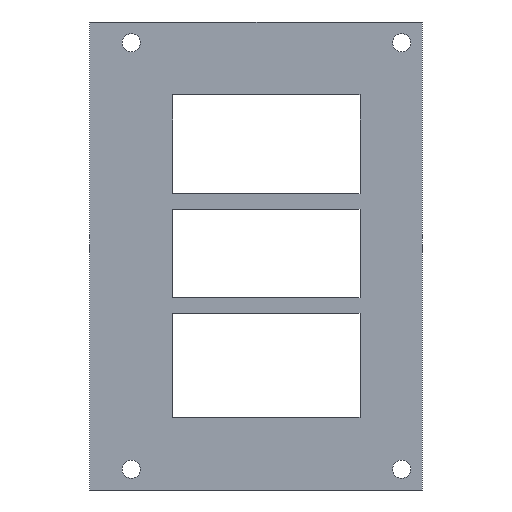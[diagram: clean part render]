
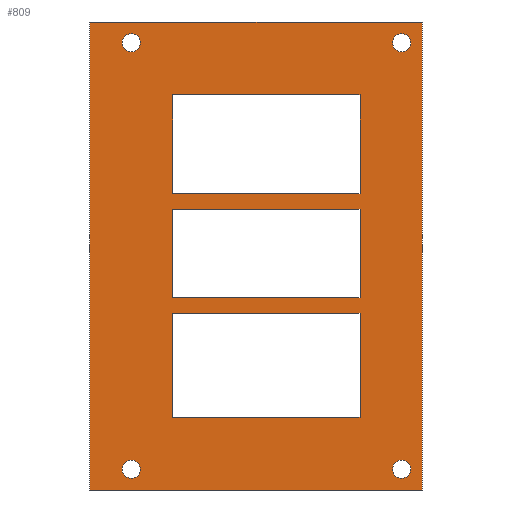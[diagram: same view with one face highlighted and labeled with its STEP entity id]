
A CAD part, left-side view. The second image highlights one B-rep face of the part: STEP entity #809.
In plain terms, the highlighted planar face has unit normal (-1, 0, 0).
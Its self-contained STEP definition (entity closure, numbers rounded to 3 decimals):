
#22 = VERTEX_POINT('',#23);
#23 = CARTESIAN_POINT('',(-6.,4.,12.));
#31 = EDGE_CURVE('',#22,#32,#34,.T.);
#32 = VERTEX_POINT('',#33);
#33 = CARTESIAN_POINT('',(-6.,4.,102.));
#34 = LINE('',#35,#36);
#35 = CARTESIAN_POINT('',(-6.,4.,12.));
#36 = VECTOR('',#37,1.);
#37 = DIRECTION('',(0.,0.,1.));
#61 = EDGE_CURVE('',#32,#62,#64,.T.);
#62 = VERTEX_POINT('',#63);
#63 = CARTESIAN_POINT('',(-6.,68.,102.));
#64 = LINE('',#65,#66);
#65 = CARTESIAN_POINT('',(-6.,4.,102.));
#66 = VECTOR('',#67,1.);
#67 = DIRECTION('',(0.,1.,0.));
#92 = EDGE_CURVE('',#22,#93,#95,.T.);
#93 = VERTEX_POINT('',#94);
#94 = CARTESIAN_POINT('',(-6.,68.,12.));
#95 = LINE('',#96,#97);
#96 = CARTESIAN_POINT('',(-6.,4.,12.));
#97 = VECTOR('',#98,1.);
#98 = DIRECTION('',(0.,1.,0.));
#124 = EDGE_CURVE('',#93,#62,#125,.T.);
#125 = LINE('',#126,#127);
#126 = CARTESIAN_POINT('',(-6.,68.,12.));
#127 = VECTOR('',#128,1.);
#128 = DIRECTION('',(0.,0.,1.));
#237 = VERTEX_POINT('',#238);
#238 = CARTESIAN_POINT('',(-6.,60.,17.75));
#244 = EDGE_CURVE('',#237,#237,#245,.T.);
#245 = CIRCLE('',#246,1.75);
#246 = AXIS2_PLACEMENT_3D('',#247,#248,#249);
#247 = CARTESIAN_POINT('',(-6.,60.,16.));
#248 = DIRECTION('',(1.,0.,-0.));
#249 = DIRECTION('',(0.,0.,1.));
#262 = VERTEX_POINT('',#263);
#263 = CARTESIAN_POINT('',(-6.,60.,99.75));
#269 = EDGE_CURVE('',#262,#262,#270,.T.);
#270 = CIRCLE('',#271,1.75);
#271 = AXIS2_PLACEMENT_3D('',#272,#273,#274);
#272 = CARTESIAN_POINT('',(-6.,60.,98.));
#273 = DIRECTION('',(1.,0.,-0.));
#274 = DIRECTION('',(0.,0.,1.));
#287 = VERTEX_POINT('',#288);
#288 = CARTESIAN_POINT('',(-6.,8.,17.75));
#294 = EDGE_CURVE('',#287,#287,#295,.T.);
#295 = CIRCLE('',#296,1.75);
#296 = AXIS2_PLACEMENT_3D('',#297,#298,#299);
#297 = CARTESIAN_POINT('',(-6.,8.,16.));
#298 = DIRECTION('',(1.,0.,-0.));
#299 = DIRECTION('',(0.,0.,1.));
#312 = VERTEX_POINT('',#313);
#313 = CARTESIAN_POINT('',(-6.,8.,99.75));
#319 = EDGE_CURVE('',#312,#312,#320,.T.);
#320 = CIRCLE('',#321,1.75);
#321 = AXIS2_PLACEMENT_3D('',#322,#323,#324);
#322 = CARTESIAN_POINT('',(-6.,8.,98.));
#323 = DIRECTION('',(1.,0.,-0.));
#324 = DIRECTION('',(0.,0.,1.));
#367 = VERTEX_POINT('',#368);
#368 = CARTESIAN_POINT('',(-6.,52.,26.));
#376 = EDGE_CURVE('',#367,#377,#379,.T.);
#377 = VERTEX_POINT('',#378);
#378 = CARTESIAN_POINT('',(-6.,16.,26.));
#379 = LINE('',#380,#381);
#380 = CARTESIAN_POINT('',(-6.,10.,26.));
#381 = VECTOR('',#382,1.);
#382 = DIRECTION('',(0.,-1.,0.));
#407 = EDGE_CURVE('',#367,#408,#410,.T.);
#408 = VERTEX_POINT('',#409);
#409 = CARTESIAN_POINT('',(-6.,52.,46.));
#410 = LINE('',#411,#412);
#411 = CARTESIAN_POINT('',(-6.,52.,19.));
#412 = VECTOR('',#413,1.);
#413 = DIRECTION('',(0.,0.,1.));
#432 = VERTEX_POINT('',#433);
#433 = CARTESIAN_POINT('',(-6.,52.,49.));
#439 = EDGE_CURVE('',#432,#440,#442,.T.);
#440 = VERTEX_POINT('',#441);
#441 = CARTESIAN_POINT('',(-6.,52.,66.));
#442 = LINE('',#443,#444);
#443 = CARTESIAN_POINT('',(-6.,52.,19.));
#444 = VECTOR('',#445,1.);
#445 = DIRECTION('',(0.,0.,1.));
#464 = VERTEX_POINT('',#465);
#465 = CARTESIAN_POINT('',(-6.,52.,69.));
#471 = EDGE_CURVE('',#464,#472,#474,.T.);
#472 = VERTEX_POINT('',#473);
#473 = CARTESIAN_POINT('',(-6.,52.,88.));
#474 = LINE('',#475,#476);
#475 = CARTESIAN_POINT('',(-6.,52.,19.));
#476 = VECTOR('',#477,1.);
#477 = DIRECTION('',(0.,0.,1.));
#502 = EDGE_CURVE('',#377,#503,#505,.T.);
#503 = VERTEX_POINT('',#504);
#504 = CARTESIAN_POINT('',(-6.,16.,46.));
#505 = LINE('',#506,#507);
#506 = CARTESIAN_POINT('',(-6.,16.,19.));
#507 = VECTOR('',#508,1.);
#508 = DIRECTION('',(0.,0.,1.));
#527 = VERTEX_POINT('',#528);
#528 = CARTESIAN_POINT('',(-6.,16.,49.));
#534 = EDGE_CURVE('',#527,#535,#537,.T.);
#535 = VERTEX_POINT('',#536);
#536 = CARTESIAN_POINT('',(-6.,16.,66.));
#537 = LINE('',#538,#539);
#538 = CARTESIAN_POINT('',(-6.,16.,19.));
#539 = VECTOR('',#540,1.);
#540 = DIRECTION('',(0.,0.,1.));
#559 = VERTEX_POINT('',#560);
#560 = CARTESIAN_POINT('',(-6.,16.,69.));
#566 = EDGE_CURVE('',#559,#567,#569,.T.);
#567 = VERTEX_POINT('',#568);
#568 = CARTESIAN_POINT('',(-6.,16.,88.));
#569 = LINE('',#570,#571);
#570 = CARTESIAN_POINT('',(-6.,16.,19.));
#571 = VECTOR('',#572,1.);
#572 = DIRECTION('',(0.,0.,1.));
#597 = EDGE_CURVE('',#472,#567,#598,.T.);
#598 = LINE('',#599,#600);
#599 = CARTESIAN_POINT('',(-6.,10.,88.));
#600 = VECTOR('',#601,1.);
#601 = DIRECTION('',(0.,-1.,0.));
#655 = EDGE_CURVE('',#559,#464,#656,.T.);
#656 = LINE('',#657,#658);
#657 = CARTESIAN_POINT('',(-6.,16.,69.));
#658 = VECTOR('',#659,1.);
#659 = DIRECTION('',(0.,1.,0.));
#694 = EDGE_CURVE('',#535,#440,#695,.T.);
#695 = LINE('',#696,#697);
#696 = CARTESIAN_POINT('',(-6.,16.,66.));
#697 = VECTOR('',#698,1.);
#698 = DIRECTION('',(0.,1.,0.));
#711 = EDGE_CURVE('',#527,#432,#712,.T.);
#712 = LINE('',#713,#714);
#713 = CARTESIAN_POINT('',(-6.,16.,49.));
#714 = VECTOR('',#715,1.);
#715 = DIRECTION('',(0.,1.,0.));
#750 = EDGE_CURVE('',#503,#408,#751,.T.);
#751 = LINE('',#752,#753);
#752 = CARTESIAN_POINT('',(-6.,16.,46.));
#753 = VECTOR('',#754,1.);
#754 = DIRECTION('',(0.,1.,0.));
#809 = ADVANCED_FACE('',(#810,#816,#822,#828,#834,#837,#840,#843),#846,
  .F.);
#810 = FACE_BOUND('',#811,.T.);
#811 = EDGE_LOOP('',(#812,#813,#814,#815));
#812 = ORIENTED_EDGE('',*,*,#31,.T.);
#813 = ORIENTED_EDGE('',*,*,#61,.T.);
#814 = ORIENTED_EDGE('',*,*,#124,.F.);
#815 = ORIENTED_EDGE('',*,*,#92,.F.);
#816 = FACE_BOUND('',#817,.F.);
#817 = EDGE_LOOP('',(#818,#819,#820,#821));
#818 = ORIENTED_EDGE('',*,*,#502,.T.);
#819 = ORIENTED_EDGE('',*,*,#750,.T.);
#820 = ORIENTED_EDGE('',*,*,#407,.F.);
#821 = ORIENTED_EDGE('',*,*,#376,.T.);
#822 = FACE_BOUND('',#823,.F.);
#823 = EDGE_LOOP('',(#824,#825,#826,#827));
#824 = ORIENTED_EDGE('',*,*,#655,.F.);
#825 = ORIENTED_EDGE('',*,*,#566,.T.);
#826 = ORIENTED_EDGE('',*,*,#597,.F.);
#827 = ORIENTED_EDGE('',*,*,#471,.F.);
#828 = FACE_BOUND('',#829,.F.);
#829 = EDGE_LOOP('',(#830,#831,#832,#833));
#830 = ORIENTED_EDGE('',*,*,#711,.F.);
#831 = ORIENTED_EDGE('',*,*,#534,.T.);
#832 = ORIENTED_EDGE('',*,*,#694,.T.);
#833 = ORIENTED_EDGE('',*,*,#439,.F.);
#834 = FACE_BOUND('',#835,.F.);
#835 = EDGE_LOOP('',(#836));
#836 = ORIENTED_EDGE('',*,*,#244,.F.);
#837 = FACE_BOUND('',#838,.F.);
#838 = EDGE_LOOP('',(#839));
#839 = ORIENTED_EDGE('',*,*,#269,.F.);
#840 = FACE_BOUND('',#841,.F.);
#841 = EDGE_LOOP('',(#842));
#842 = ORIENTED_EDGE('',*,*,#294,.F.);
#843 = FACE_BOUND('',#844,.F.);
#844 = EDGE_LOOP('',(#845));
#845 = ORIENTED_EDGE('',*,*,#319,.F.);
#846 = PLANE('',#847);
#847 = AXIS2_PLACEMENT_3D('',#848,#849,#850);
#848 = CARTESIAN_POINT('',(-6.,4.,12.));
#849 = DIRECTION('',(1.,0.,0.));
#850 = DIRECTION('',(0.,0.,1.));
